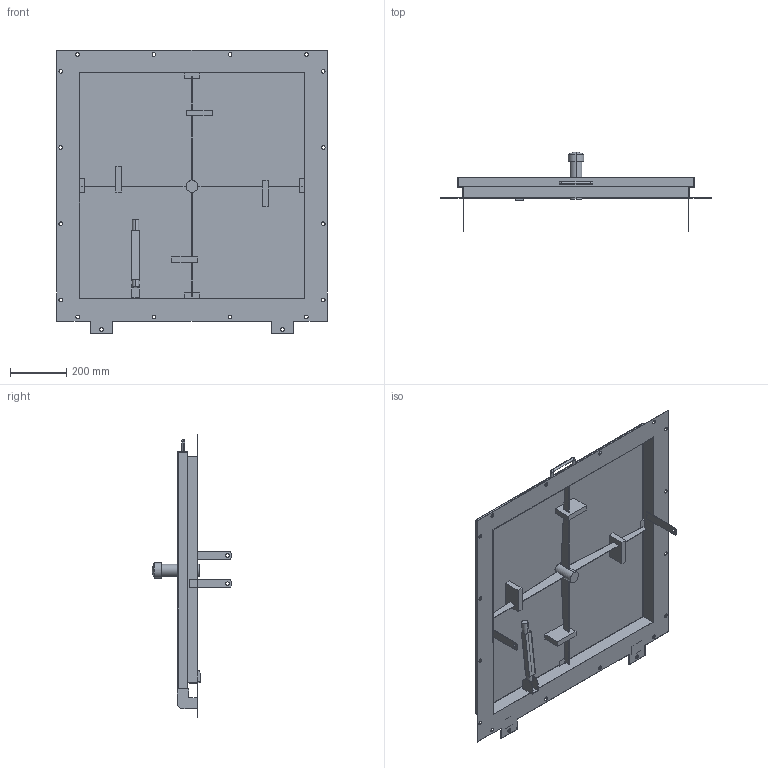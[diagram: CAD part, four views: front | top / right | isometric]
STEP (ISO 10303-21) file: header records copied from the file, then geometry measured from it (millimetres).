
FILE_DESCRIPTION((''),'2;1');
FILE_NAME('52427535','2025-08-05T10:24:33',('wep'),('HUBER SE'),'CREO PARAMETRIC BY PTC INC, 2022162','CREO PARAMETRIC BY PTC INC, 2022162','');
FILE_SCHEMA(('AUTOMOTIVE_DESIGN { 1 0 10303 214 1 1 1 1 }'));
Length unit declared in the file: millimetre
Products named in the file (1): 52427535
Bounding box: 960 x 282 x 1005 mm (x, y, z)
Volume: 3892256.4 mm3; surface area: 2810539.9 mm2
Topology: 3 solids, 3 shells, 815 faces, 2207 edges, 1459 vertices
Faces by surface type: plane 474, extrusion 275, cylinder 60, bspline 4, sphere 2
Entity records: 27472 total; most frequent: CARTESIAN_POINT 7213, ORIENTED_EDGE 4402, DIRECTION 3122, EDGE_CURVE 2201, VECTOR 1802, LINE 1527, VERTEX_POINT 1459, EDGE_LOOP 928
